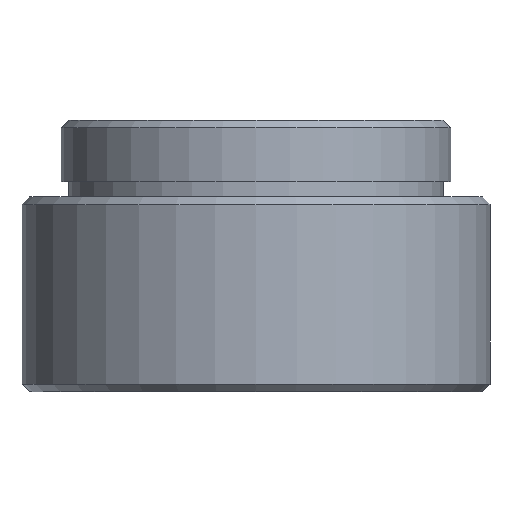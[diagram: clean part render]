
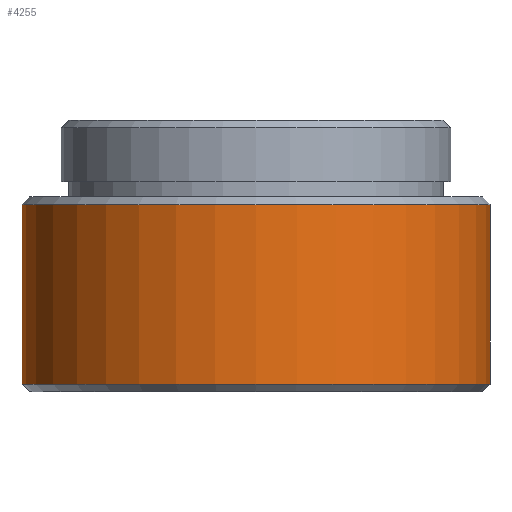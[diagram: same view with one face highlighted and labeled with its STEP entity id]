
A CAD part, front view. The second image highlights one B-rep face of the part: STEP entity #4255.
In plain terms, the highlighted cylindrical face has radius 15.25 mm (diameter 30.5 mm), a partial arc.
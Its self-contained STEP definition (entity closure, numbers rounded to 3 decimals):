
#436 = ORIENTED_EDGE ( 'NONE', *, *, #4998, .F. ) ;
#546 = VERTEX_POINT ( 'NONE', #9387 ) ;
#728 = DIRECTION ( 'NONE',  ( 0., 0., -1. ) ) ;
#1738 = EDGE_CURVE ( 'NONE', #546, #4243, #3497, .T. ) ;
#1914 = FACE_OUTER_BOUND ( 'NONE', #16000, .T. ) ;
#1981 = CARTESIAN_POINT ( 'NONE',  ( -23.136, -1.028, 21.65 ) ) ;
#1992 = CIRCLE ( 'NONE', #3076, 15.25 ) ;
#2191 = EDGE_CURVE ( 'NONE', #12753, #546, #13599, .T. ) ;
#2226 = ORIENTED_EDGE ( 'NONE', *, *, #1738, .T. ) ;
#3076 = AXIS2_PLACEMENT_3D ( 'NONE', #3772, #9322, #13005 ) ;
#3445 = DIRECTION ( 'NONE',  ( -1., 0., 0. ) ) ;
#3497 = CIRCLE ( 'NONE', #12229, 15.25 ) ;
#3527 = DIRECTION ( 'NONE',  ( 0., 0., 1. ) ) ;
#3731 = DIRECTION ( 'NONE',  ( 0., 0., -1. ) ) ;
#3772 = CARTESIAN_POINT ( 'NONE',  ( -7.886, -1.028, 33.85 ) ) ;
#4243 = VERTEX_POINT ( 'NONE', #10880 ) ;
#4255 = ADVANCED_FACE ( 'NONE', ( #1914 ), #4727, .T. ) ;
#4452 = EDGE_CURVE ( 'NONE', #7614, #12753, #1992, .T. ) ;
#4727 = CYLINDRICAL_SURFACE ( 'NONE', #13178, 15.25 ) ;
#4892 = CARTESIAN_POINT ( 'NONE',  ( -7.886, -1.028, 22.15 ) ) ;
#4998 = EDGE_CURVE ( 'NONE', #7614, #4243, #15279, .T. ) ;
#6242 = CARTESIAN_POINT ( 'NONE',  ( -23.136, -1.028, 33.85 ) ) ;
#6301 = CARTESIAN_POINT ( 'NONE',  ( 7.364, -1.028, 21.65 ) ) ;
#7031 = CARTESIAN_POINT ( 'NONE',  ( -7.886, -1.028, 21.65 ) ) ;
#7188 = DIRECTION ( 'NONE',  ( 0., 0., -1. ) ) ;
#7614 = VERTEX_POINT ( 'NONE', #12349 ) ;
#8739 = DIRECTION ( 'NONE',  ( -1., 0., 0. ) ) ;
#9322 = DIRECTION ( 'NONE',  ( 0., 0., -1. ) ) ;
#9387 = CARTESIAN_POINT ( 'NONE',  ( -23.136, -1.028, 22.15 ) ) ;
#10617 = ORIENTED_EDGE ( 'NONE', *, *, #4452, .T. ) ;
#10880 = CARTESIAN_POINT ( 'NONE',  ( 7.364, -1.028, 22.15 ) ) ;
#11552 = ORIENTED_EDGE ( 'NONE', *, *, #2191, .T. ) ;
#12229 = AXIS2_PLACEMENT_3D ( 'NONE', #4892, #3527, #8739 ) ;
#12349 = CARTESIAN_POINT ( 'NONE',  ( 7.364, -1.028, 33.85 ) ) ;
#12366 = VECTOR ( 'NONE', #3731, 1000. ) ;
#12753 = VERTEX_POINT ( 'NONE', #6242 ) ;
#13005 = DIRECTION ( 'NONE',  ( 1., 0., 0. ) ) ;
#13178 = AXIS2_PLACEMENT_3D ( 'NONE', #7031, #728, #3445 ) ;
#13599 = LINE ( 'NONE', #1981, #14687 ) ;
#14687 = VECTOR ( 'NONE', #7188, 1000. ) ;
#15279 = LINE ( 'NONE', #6301, #12366 ) ;
#16000 = EDGE_LOOP ( 'NONE', ( #436, #10617, #11552, #2226 ) ) ;
